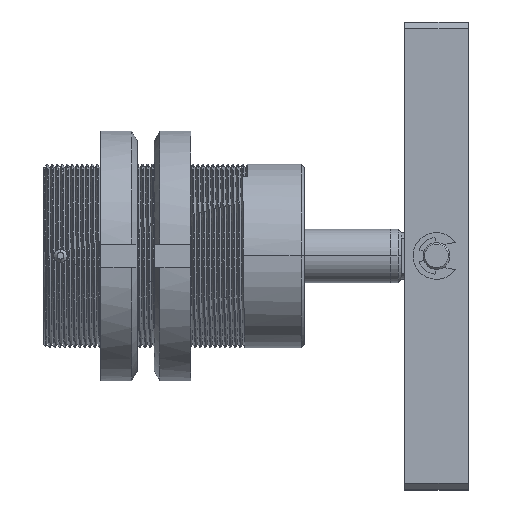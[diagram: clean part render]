
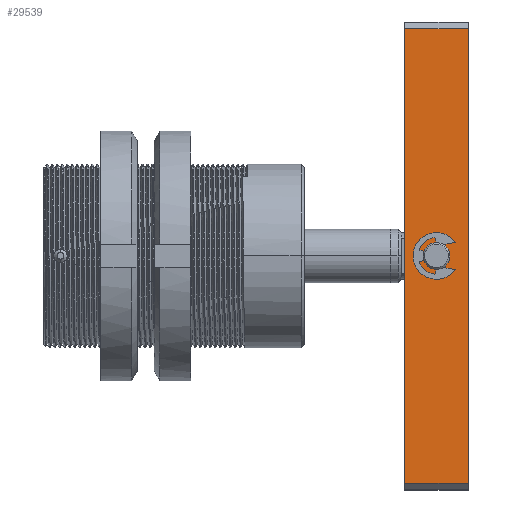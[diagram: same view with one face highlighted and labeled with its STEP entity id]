
A CAD part, top view. The second image highlights one B-rep face of the part: STEP entity #29539.
In plain terms, the highlighted planar face has unit normal (0, 0, 1) as drawn and (0, -1, 0) by its records, which use the part's own axes.
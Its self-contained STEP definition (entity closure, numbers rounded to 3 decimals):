
#1291 = ORIENTED_EDGE ( 'NONE', *, *, #29513, .F. ) ;
#1322 = ORIENTED_EDGE ( 'NONE', *, *, #29511, .T. ) ;
#2436 = ORIENTED_EDGE ( 'NONE', *, *, #29473, .T. ) ;
#2529 = ORIENTED_EDGE ( 'NONE', *, *, #29487, .F. ) ;
#2537 = ORIENTED_EDGE ( 'NONE', *, *, #29512, .T. ) ;
#2574 = ORIENTED_EDGE ( 'NONE', *, *, #29501, .T. ) ;
#7907 = VERTEX_POINT ( 'NONE', #59746 ) ;
#7908 = VERTEX_POINT ( 'NONE', #59744 ) ;
#7920 = VERTEX_POINT ( 'NONE', #59720 ) ;
#7921 = VERTEX_POINT ( 'NONE', #59718 ) ;
#7935 = VERTEX_POINT ( 'NONE', #59689 ) ;
#7936 = VERTEX_POINT ( 'NONE', #59687 ) ;
#10847 = EDGE_LOOP ( 'NONE', ( #2574, #1291, #2529, #1322 ) ) ;
#10869 = EDGE_LOOP ( 'NONE', ( #2537, #2436 ) ) ;
#29473 = EDGE_CURVE ( 'NONE', #7936, #7935, #30454, .T. ) ;
#29487 = EDGE_CURVE ( 'NONE', #7921, #7920, #70228, .T. ) ;
#29501 = EDGE_CURVE ( 'NONE', #7907, #7908, #70270, .T. ) ;
#29511 = EDGE_CURVE ( 'NONE', #7921, #7907, #70300, .T. ) ;
#29512 = EDGE_CURVE ( 'NONE', #7935, #7936, #30464, .T. ) ;
#29513 = EDGE_CURVE ( 'NONE', #7920, #7908, #70306, .T. ) ;
#29539 = ADVANCED_FACE ( 'NONE', ( #61717, #61720 ), #70673, .F. ) ;
#30454 = CIRCLE ( 'NONE', #61632, 4. ) ;
#30464 = CIRCLE ( 'NONE', #61650, 4. ) ;
#59687 = CARTESIAN_POINT ( 'NONE',  ( 13462.757, 2336.591, 5.5 ) ) ;
#59689 = CARTESIAN_POINT ( 'NONE',  ( 13462.757, 2336.591, 13.5 ) ) ;
#59718 = CARTESIAN_POINT ( 'NONE',  ( 13394.757, 2336.591, 19. ) ) ;
#59720 = CARTESIAN_POINT ( 'NONE',  ( 13530.757, 2336.591, 19. ) ) ;
#59744 = CARTESIAN_POINT ( 'NONE',  ( 13530.757, 2336.591, 0. ) ) ;
#59746 = CARTESIAN_POINT ( 'NONE',  ( 13394.757, 2336.591, 0. ) ) ;
#61632 = AXIS2_PLACEMENT_3D ( 'NONE', #70182, #70186, #70187 ) ;
#61647 = VECTOR ( 'NONE', #70230, 1000. ) ;
#61650 = AXIS2_PLACEMENT_3D ( 'NONE', #70287, #70303, #70304 ) ;
#61662 = VECTOR ( 'NONE', #70272, 1000. ) ;
#61674 = VECTOR ( 'NONE', #70302, 1000. ) ;
#61675 = VECTOR ( 'NONE', #70308, 1000. ) ;
#61717 = FACE_BOUND ( 'NONE', #10869, .T. ) ;
#61720 = FACE_OUTER_BOUND ( 'NONE', #10847, .T. ) ;
#61723 = AXIS2_PLACEMENT_3D ( 'NONE', #70674, #70675, #70676 ) ;
#70182 = CARTESIAN_POINT ( 'NONE',  ( 13462.757, 2336.591, 9.5 ) ) ;
#70186 = DIRECTION ( 'NONE',  ( 0., 1., 0. ) ) ;
#70187 = DIRECTION ( 'NONE',  ( 0., 0., 1. ) ) ;
#70228 = LINE ( 'NONE', #70229, #61647 ) ;
#70229 = CARTESIAN_POINT ( 'NONE',  ( 13394.757, 2336.591, 19. ) ) ;
#70230 = DIRECTION ( 'NONE',  ( 1., 0., 0. ) ) ;
#70270 = LINE ( 'NONE', #70271, #61662 ) ;
#70271 = CARTESIAN_POINT ( 'NONE',  ( 13394.757, 2336.591, 0. ) ) ;
#70272 = DIRECTION ( 'NONE',  ( 1., 0., 0. ) ) ;
#70287 = CARTESIAN_POINT ( 'NONE',  ( 13462.757, 2336.591, 9.5 ) ) ;
#70300 = LINE ( 'NONE', #70301, #61674 ) ;
#70301 = CARTESIAN_POINT ( 'NONE',  ( 13394.757, 2336.591, 19. ) ) ;
#70302 = DIRECTION ( 'NONE',  ( 0., 0., -1. ) ) ;
#70303 = DIRECTION ( 'NONE',  ( 0., 1., 0. ) ) ;
#70304 = DIRECTION ( 'NONE',  ( 0., 0., 1. ) ) ;
#70306 = LINE ( 'NONE', #70307, #61675 ) ;
#70307 = CARTESIAN_POINT ( 'NONE',  ( 13530.757, 2336.591, 19. ) ) ;
#70308 = DIRECTION ( 'NONE',  ( 0., 0., -1. ) ) ;
#70673 = PLANE ( 'NONE',  #61723 ) ;
#70674 = CARTESIAN_POINT ( 'NONE',  ( 13394.757, 2336.591, 19. ) ) ;
#70675 = DIRECTION ( 'NONE',  ( 0., 1., 0. ) ) ;
#70676 = DIRECTION ( 'NONE',  ( 0., 0., 1. ) ) ;
